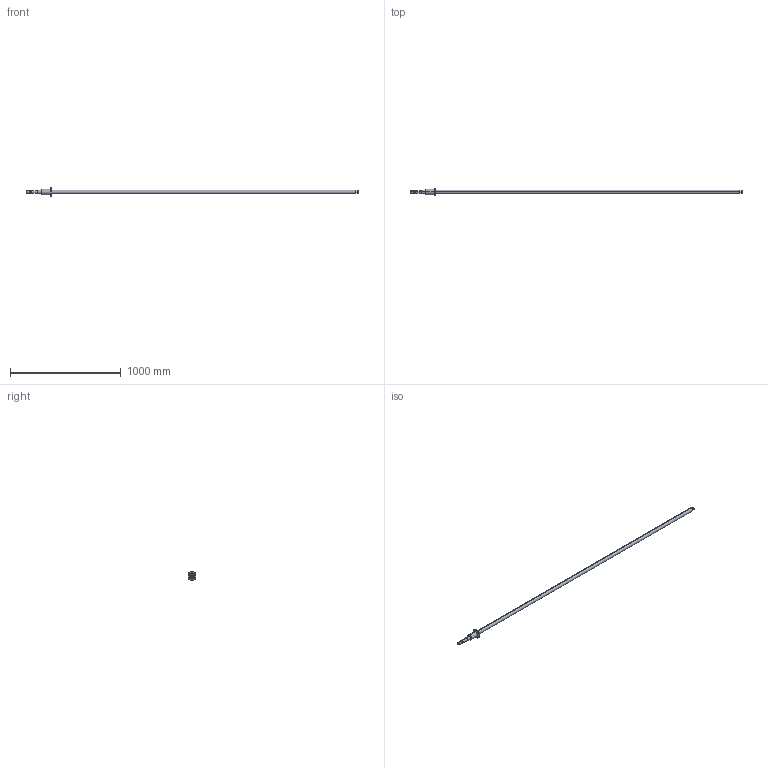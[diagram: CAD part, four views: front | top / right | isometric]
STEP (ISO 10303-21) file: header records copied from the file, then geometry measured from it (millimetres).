
FILE_DESCRIPTION (( 'STEP AP214' ), '1' );
FILE_NAME ('2.2129-SFU3210-3000mm.STEP', '2025-07-22T10:41:12', ( '' ), ( '' ), 'SwSTEP 2.0', 'SolidWorks 2024', '' );
FILE_SCHEMA (( 'AUTOMOTIVE_DESIGN' ));
Length unit declared in the file: millimetre
Products named in the file (3): 2.3019 Kuularuuvimutteri SFU3210-4; 2.2129 SFU3210-3000; 2.2129-SFU3210-3000mm
Assembly tree (2 placements, depth 2):
  2.2129-SFU3210-3000mm
    2.2129 SFU3210-3000
    2.3019 Kuularuuvimutteri SFU3210-4
Bounding box: 3000 x 65 x 79.85 mm (x, y, z)
Volume: 2499128.4 mm3; surface area: 335863.2 mm2
Topology: 3 solids, 3 shells, 105 faces, 260 edges, 169 vertices
Faces by surface type: cylinder 66, plane 21, cone 9, torus 6, bspline 3
Entity records: 6193 total; most frequent: CARTESIAN_POINT 2929, ORIENTED_EDGE 520, DIRECTION 499, EDGE_CURVE 260, AXIS2_PLACEMENT_3D 204, VERTEX_POINT 169, EDGE_LOOP 129, FACE_OUTER_BOUND 105
